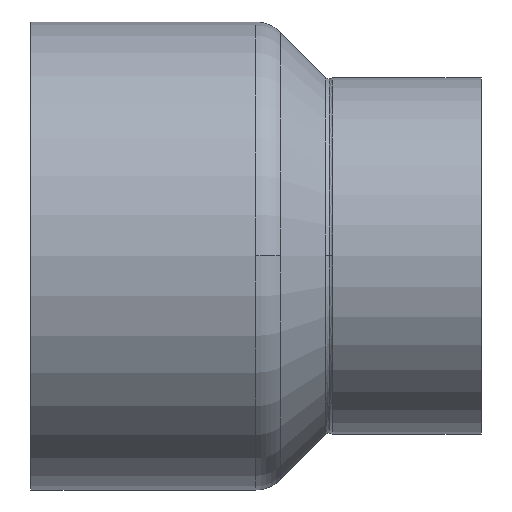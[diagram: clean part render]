
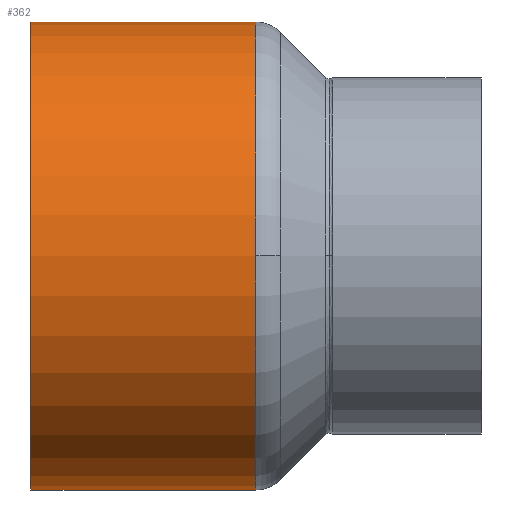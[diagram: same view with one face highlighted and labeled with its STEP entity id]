
A CAD part, top view. The second image highlights one B-rep face of the part: STEP entity #362.
In plain terms, the highlighted cylindrical face has radius 54 mm (diameter 108 mm), a partial arc.
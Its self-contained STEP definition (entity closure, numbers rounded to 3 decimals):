
#312=CARTESIAN_POINT('',(25.94,0.0,0.0));
#313=DIRECTION('',(1.0,0.0,0.0));
#314=DIRECTION('',(0.0,1.0,0.0));
#315=AXIS2_PLACEMENT_3D('',#312,#313,#314);
#316=CYLINDRICAL_SURFACE('',#315,54.0);
#317=CARTESIAN_POINT('',(0.0,54.0,0.0));
#318=VERTEX_POINT('',#317);
#319=CARTESIAN_POINT('',(51.88,54.0,0.0));
#320=VERTEX_POINT('',#319);
#321=CARTESIAN_POINT('',(0.0,54.0,0.0));
#322=DIRECTION('',(1.0,0.0,0.0));
#323=VECTOR('',#322,51.88);
#324=LINE('',#321,#323);
#325=EDGE_CURVE('',#318,#320,#324,.T.);
#326=ORIENTED_EDGE('',*,*,#325,.F.);
#327=CARTESIAN_POINT('',(0.0,-54.0,0.));
#328=VERTEX_POINT('',#327);
#329=CARTESIAN_POINT('',(0.0,0.0,0.0));
#330=DIRECTION('',(1.0,0.0,0.0));
#331=DIRECTION('',(0.0,1.0,0.0));
#332=AXIS2_PLACEMENT_3D('',#329,#330,#331);
#333=CIRCLE('',#332,54.0);
#334=EDGE_CURVE('',#318,#328,#333,.T.);
#335=ORIENTED_EDGE('',*,*,#334,.T.);
#336=CARTESIAN_POINT('',(51.88,-54.0,0.));
#337=VERTEX_POINT('',#336);
#338=CARTESIAN_POINT('',(51.88,-54.0,0.));
#339=DIRECTION('',(-1.0,0.0,0.0));
#340=VECTOR('',#339,51.88);
#341=LINE('',#338,#340);
#342=EDGE_CURVE('',#337,#328,#341,.T.);
#343=ORIENTED_EDGE('',*,*,#342,.F.);
#344=CARTESIAN_POINT('',(51.88,0.,54.0));
#345=VERTEX_POINT('',#344);
#346=CARTESIAN_POINT('',(51.88,0.0,0.0));
#347=DIRECTION('',(1.0,0.0,0.0));
#348=DIRECTION('',(0.0,1.0,0.0));
#349=AXIS2_PLACEMENT_3D('',#346,#347,#348);
#350=CIRCLE('',#349,54.0);
#351=EDGE_CURVE('',#345,#337,#350,.T.);
#352=ORIENTED_EDGE('',*,*,#351,.F.);
#353=CARTESIAN_POINT('',(51.88,0.0,0.0));
#354=DIRECTION('',(1.0,0.0,0.0));
#355=DIRECTION('',(0.0,1.0,0.0));
#356=AXIS2_PLACEMENT_3D('',#353,#354,#355);
#357=CIRCLE('',#356,54.0);
#358=EDGE_CURVE('',#320,#345,#357,.T.);
#359=ORIENTED_EDGE('',*,*,#358,.F.);
#360=EDGE_LOOP('',(#326,#335,#343,#352,#359));
#361=FACE_OUTER_BOUND('',#360,.T.);
#362=ADVANCED_FACE('',(#361),#316,.T.);
